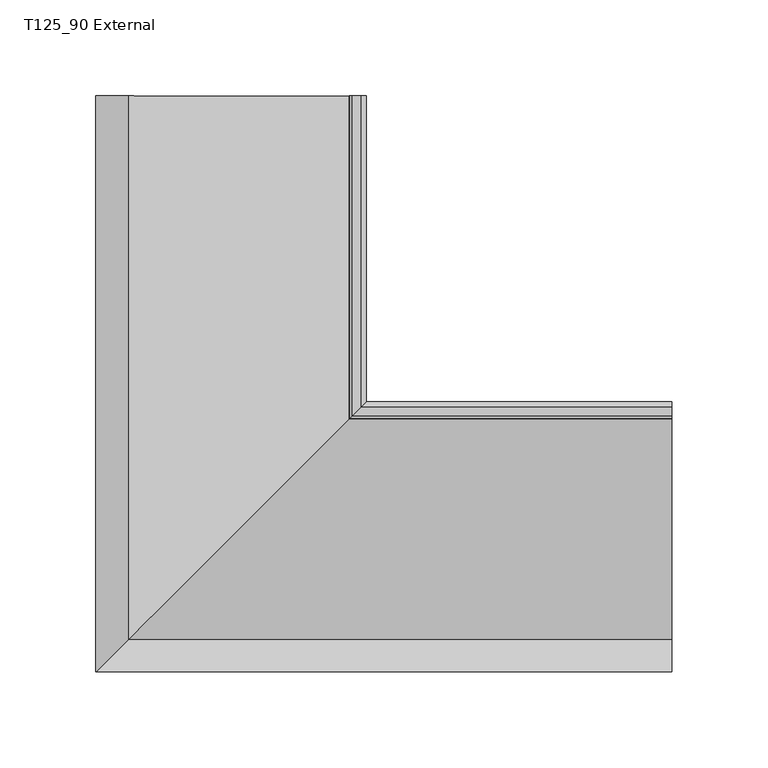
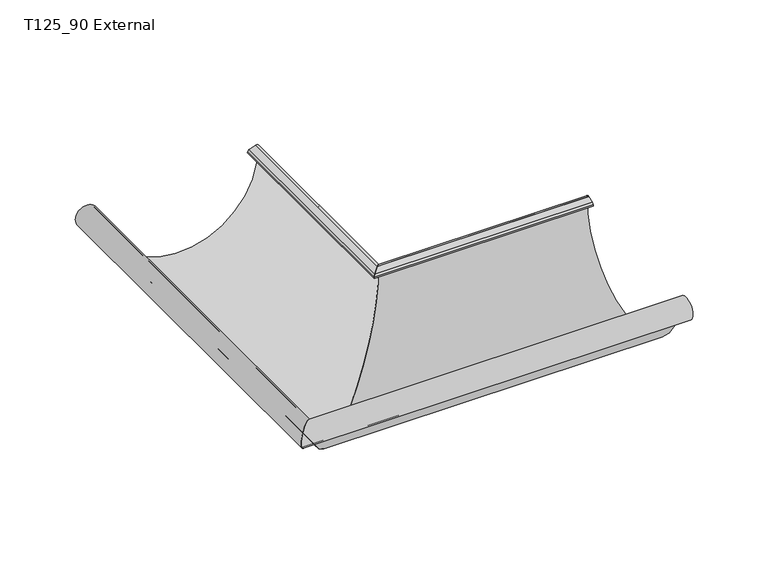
"""IFC4 building model written with IfcOpenShell, lengths in millimetres: proxy geometry, GROVIK_Gutter_Corner : T125_90 External."""

from ifc_helpers import new_model, si_unit, frame, origin, place, context, project, spatial, polyline, circle_curve, ellipse_curve, source, transform, mapped, element, save
from ifc_brep_helpers import plane_surface, cylinder_surface, revolved_surface, advanced_brep


def t125_90_external_ac835862(model_context):
    return source(origin(), model_context, "Body", "AdvancedBrep", [
        advanced_brep(
        [(-8.2218996, -8.2218996, -4.3767466), (-7.9286985, -7.9286985, -3.417729), (-7.3144139, -7.3144139, -2.7704081), (-2.6159508, -2.6159508, -1.0603074), (-1.2741356, -1.2741356, -2.0202437), (-123.9665472, -123.9665472, -11.1898563), (-133.8266643, -133.8266643, -20.54941), (-131.5235543, -131.5235543, -18.572593), (-131.5235543, -131.5235543, -12.0487098), (-132.5235543, -132.5235543, -12.0487098), (-132.5235543, -132.5235543, -18.572593), (-133.6750695, -133.6750695, -19.5609673), (-124.9615409, -124.9615409, -11.2897939), (-0.2739306, -0.2739306, -2.0), (-2.9579709, -2.9579709, -0.1206148), (-7.656434, -7.656434, -1.8307155), (-8.8850033, -8.8850033, -3.1253573), (-9.1782044, -9.1782044, -4.0843749), (-9.1782044, 158.9, -4.0843749), (-8.8850033, 158.9, -3.1253573), (-7.656434, 158.9, -1.8307155), (-2.9579709, 158.9, -0.1206148), (-0.2739306, 158.9, -2.0), (-124.9615409, 158.9, -11.2897939), (-133.6750695, 158.9, -19.5609673), (-132.5235543, 158.9, -18.572593), (-132.5235543, 158.9, -12.0487098), (-131.5235543, 158.9, -12.0487098), (-131.5235543, 158.9, -18.572593), (-133.8266643, 158.9, -20.54941), (-123.9665472, 158.9, -11.1898563), (-1.2741356, 158.9, -2.0202437), (-2.6159508, 158.9, -1.0603074), (-7.3144139, 158.9, -2.7704081), (-7.9286985, 158.9, -3.417729), (-8.2218996, 158.9, -4.3767466)],
        [
            (0, 1),
            (1, 2, ellipse_curve(frame((-6.9723938, -6.9723938, -3.7101007), z_axis=(-0.707106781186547, 0.7071067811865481, 0.0), x_axis=(-0.7071067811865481, -0.7071067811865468, 0.0)), 1.4142136, 1.0)),
            (2, 3),
            (3, 4, ellipse_curve(frame((-2.2739306, -2.2739306, -2.0), z_axis=(-0.707106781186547, 0.7071067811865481, 0.0), x_axis=(-0.7071067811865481, -0.7071067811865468, 0.0)), 1.4142136, 1.0)),
            (4, 5, ellipse_curve(frame((-62.7373106, -62.7373106, -5.0399641), z_axis=(-0.707106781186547, 0.7071067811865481, 0.0), x_axis=(-0.7071067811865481, -0.7071067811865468, 0.0)), 87.0268992, 61.5373106)),
            (5, 6, ellipse_curve(frame((-132.5230203, -132.5230203, -12.0492723), z_axis=(0.707106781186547, -0.7071067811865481, 0.0), x_axis=(0.7071067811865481, 0.7071067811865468, 0.0)), 12.1615647, 8.5995249)),
            (6, 7, ellipse_curve(frame((-133.5234851, -133.5234851, -18.572593), z_axis=(0.707106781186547, -0.7071067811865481, 0.0), x_axis=(0.7071067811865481, 0.7071067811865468, 0.0)), 2.8283292, 1.9999308)),
            (7, 8),
            (8, 9),
            (9, 10),
            (10, 11, ellipse_curve(frame((-133.5234851, -133.5234851, -18.572593), z_axis=(-0.707106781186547, 0.7071067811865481, 0.0), x_axis=(-0.7071067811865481, -0.7071067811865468, 0.0)), 1.4141156, 0.9999308)),
            (11, 12, ellipse_curve(frame((-132.5230203, -132.5230203, -12.0492723), z_axis=(-0.707106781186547, 0.7071067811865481, 0.0), x_axis=(-0.7071067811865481, -0.7071067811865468, 0.0)), 10.7473511, 7.5995249)),
            (12, 13, ellipse_curve(frame((-62.7373106, -62.7373106, -5.0399641), z_axis=(0.707106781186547, -0.7071067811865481, 0.0), x_axis=(0.7071067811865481, 0.7071067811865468, 0.0)), 88.4411128, 62.5373106)),
            (13, 14, ellipse_curve(frame((-2.2739306, -2.2739306, -2.0), z_axis=(0.707106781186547, -0.7071067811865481, 0.0), x_axis=(0.7071067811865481, 0.7071067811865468, 0.0)), 2.8284271, 2.0)),
            (14, 15),
            (15, 16, ellipse_curve(frame((-6.9723938, -6.9723938, -3.7101007), z_axis=(0.707106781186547, -0.7071067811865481, 0.0), x_axis=(0.7071067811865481, 0.7071067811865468, 0.0)), 2.8284271, 2.0)),
            (16, 17),
            (17, 0),
            (18, 19),
            (19, 20, circle_curve(frame((-6.9723938, 158.9, -3.7101007), z_axis=(0.0, 1.0, 0.0), x_axis=(-1.0, 0.0, 0.0)), 2.0)),
            (20, 21),
            (21, 22, circle_curve(frame((-2.2739306, 158.9, -2.0), z_axis=(0.0, 1.0, 0.0), x_axis=(-1.0, 0.0, 0.0)), 2.0)),
            (22, 23, circle_curve(frame((-62.7373106, 158.9, -5.0399641), z_axis=(0.0, 1.0, 0.0), x_axis=(-1.0, 0.0, 0.0)), 62.5373106)),
            (23, 24, circle_curve(frame((-132.5230203, 158.9, -12.0492723), z_axis=(0.0, -1.0, 0.0), x_axis=(-1.0, 0.0, 0.0)), 7.5995249)),
            (24, 25, circle_curve(frame((-133.5234851, 158.9, -18.572593), z_axis=(0.0, -1.0, 0.0), x_axis=(-1.0, 0.0, 0.0)), 0.9999308)),
            (25, 26),
            (26, 27),
            (27, 28),
            (28, 29, circle_curve(frame((-133.5234851, 158.9, -18.572593), z_axis=(0.0, 1.0, 0.0), x_axis=(-1.0, 0.0, 0.0)), 1.9999308)),
            (29, 30, circle_curve(frame((-132.5230203, 158.9, -12.0492723), z_axis=(0.0, 1.0, 0.0), x_axis=(-1.0, 0.0, 0.0)), 8.5995249)),
            (30, 31, circle_curve(frame((-62.7373106, 158.9, -5.0399641), z_axis=(0.0, -1.0, 0.0), x_axis=(-1.0, 0.0, 0.0)), 61.5373106)),
            (31, 32, circle_curve(frame((-2.2739306, 158.9, -2.0), z_axis=(0.0, -1.0, 0.0), x_axis=(-1.0, 0.0, 0.0)), 1.0)),
            (32, 33),
            (33, 34, circle_curve(frame((-6.9723938, 158.9, -3.7101007), z_axis=(0.0, -1.0, 0.0), x_axis=(-1.0, 0.0, 0.0)), 1.0)),
            (34, 35),
            (35, 18),
            (35, 0),
            (17, 18),
            (34, 1),
            (33, 2),
            (32, 3),
            (31, 4),
            (30, 5),
            (29, 6),
            (28, 7),
            (27, 8),
            (26, 9),
            (25, 10),
            (24, 11),
            (23, 12),
            (22, 13),
            (21, 14),
            (20, 15),
            (19, 16),
        ],
        [
            plane_surface(frame((-200.0, -200.0, 250.0), z_axis=(0.707106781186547, -0.7071067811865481, 0.0), x_axis=(0.0, 0.0, -1.0))),
            plane_surface(frame((-0.2, 158.9, 0.0), z_axis=(0.0, 1.0, 0.0), x_axis=(0.0, 0.0, 1.0))),
            plane_surface(frame((-9.1782044, 158.9, -4.0843749), z_axis=(-0.2923717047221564, 0.0, -0.956304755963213), x_axis=(0.0, -1.0, 0.0))),
            plane_surface(frame((-8.2218996, 158.9, -4.3767466), z_axis=(0.9563047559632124, 0.0, -0.2923717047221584), x_axis=(0.0, -1.0, 0.0))),
            revolved_surface(polyline([(-7.9723938, -7.972393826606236, -3.7101007), (-7.9723938, 158.9, -3.7101007)]), (-6.9723938, 158.9, -3.7101007), (0.0, -1.0, 0.0)),
            plane_surface(frame((-7.3144139, 158.9, -2.7704081), z_axis=(0.342020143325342, 0.0, -0.9396926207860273), x_axis=(0.0, -1.0, 0.0))),
            revolved_surface(polyline([(-3.2739306, -3.2739306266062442, -2.0), (-3.2739306, 158.9, -2.0)]), (-2.2739306, 158.9, -2.0), (0.0, -1.0, 0.0)),
            revolved_surface(polyline([(-124.2746212, -124.27462116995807, -5.0399641), (-124.2746212, 158.9, -5.0399641)]), (-62.7373106, 158.9, -5.0399641), (0.0, -1.0, 0.0)),
            cylinder_surface(frame((-132.5230203, 158.9, -12.0492723), z_axis=(0.0, 1.0, 0.0), x_axis=(-1.0, 0.0, 0.0)), 8.5995249),
            cylinder_surface(frame((-133.5234851, 158.9, -18.572593), z_axis=(0.0, 1.0, 0.0), x_axis=(-1.0, 0.0, 0.0)), 1.9999308),
            plane_surface(frame((-131.5235543, 158.9, -18.572593), z_axis=(1.0, 0.0, 0.0), x_axis=(0.0, -1.0, 0.0))),
            plane_surface(frame((-131.5235543, 158.9, -12.0487098), z_axis=(0.0, 0.0, 1.0), x_axis=(0.0, -1.0, 0.0))),
            plane_surface(frame((-132.5235543, 158.9, -12.0487098), z_axis=(-1.0, 0.0, 0.0), x_axis=(0.0, -1.0, 0.0))),
            revolved_surface(polyline([(-134.52341589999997, -134.52341583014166, -18.572593), (-134.52341589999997, 158.9, -18.572593)]), (-133.5234851, 158.9, -18.572593), (0.0, -1.0, 0.0)),
            revolved_surface(polyline([(-140.12254520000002, -140.12254514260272, -12.0492723), (-140.12254520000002, 158.9, -12.0492723)]), (-132.5230203, 158.9, -12.0492723), (0.0, -1.0, 0.0)),
            cylinder_surface(frame((-62.7373106, 158.9, -5.0399641), z_axis=(0.0, 1.0, 0.0), x_axis=(-1.0, 0.0, 0.0)), 62.5373106),
            cylinder_surface(frame((-2.2739306, 158.9, -2.0), z_axis=(0.0, 1.0, 0.0), x_axis=(-1.0, 0.0, 0.0)), 2.0),
            plane_surface(frame((-2.9579709, 158.9, -0.1206148), z_axis=(-0.3420201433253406, 0.0, 0.9396926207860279), x_axis=(0.0, -1.0, 0.0))),
            cylinder_surface(frame((-6.9723938, 158.9, -3.7101007), z_axis=(0.0, 1.0, 0.0), x_axis=(-1.0, 0.0, 0.0)), 2.0),
            plane_surface(frame((-8.8850033, 158.9, -3.1253573), z_axis=(-0.9563047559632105, 0.0, 0.29237170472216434), x_axis=(0.0, -1.0, 0.0))),
        ],
        [
            (0, [[1, 2, 3, 4, 5, 6, 7, 8, 9, 10, 11, 12, 13, 14, 15, 16, 17, 18]]),
            (1, [[19, 20, 21, 22, 23, 24, 25, 26, 27, 28, 29, 30, 31, 32, 33, 34, 35, 36]]),
            (2, [[37, -18, 38, -36]]),
            (3, [[39, -1, -37, -35]]),
            (4, [[40, -2, -39, -34]]),
            (5, [[41, -3, -40, -33]]),
            (6, [[42, -4, -41, -32]]),
            (7, [[43, -5, -42, -31]]),
            (8, [[44, -6, -43, -30]]),
            (9, [[45, -7, -44, -29]]),
            (10, [[46, -8, -45, -28]]),
            (11, [[47, -9, -46, -27]]),
            (12, [[48, -10, -47, -26]]),
            (13, [[49, -11, -48, -25]]),
            (14, [[50, -12, -49, -24]]),
            (15, [[51, -13, -50, -23]]),
            (16, [[52, -14, -51, -22]]),
            (17, [[53, -15, -52, -21]]),
            (18, [[54, -16, -53, -20]]),
            (19, [[-38, -17, -54, -19]]),
        ],
    ),
        advanced_brep(
        [(158.9, -9.1782044, -4.0843749), (158.9, -8.2218996, -4.3767466), (158.9, -7.9286985, -3.417729), (158.9, -7.3144139, -2.7704081), (158.9, -2.6159508, -1.0603074), (158.9, -1.2741356, -2.0202437), (158.9, -123.9665472, -11.1898563), (158.9, -133.8266643, -20.54941), (158.9, -131.5235543, -18.572593), (158.9, -131.5235543, -12.0487098), (158.9, -132.5235543, -12.0487098), (158.9, -132.5235543, -18.572593), (158.9, -133.6750695, -19.5609673), (158.9, -124.9615409, -11.2897939), (158.9, -0.2739306, -2.0), (158.9, -2.9579709, -0.1206148), (158.9, -7.656434, -1.8307155), (158.9, -8.8850033, -3.1253573), (-9.1782044, -9.1782044, -4.0843749), (-8.2218996, -8.2218996, -4.3767466), (-7.9286985, -7.9286985, -3.417729), (-7.3144139, -7.3144139, -2.7704081), (-2.6159508, -2.6159508, -1.0603074), (-1.2741356, -1.2741356, -2.0202437), (-123.9665472, -123.9665472, -11.1898563), (-133.8266643, -133.8266643, -20.54941), (-131.5235543, -131.5235543, -18.572593), (-131.5235543, -131.5235543, -12.0487098), (-132.5235543, -132.5235543, -12.0487098), (-132.5235543, -132.5235543, -18.572593), (-133.6750695, -133.6750695, -19.5609673), (-124.9615409, -124.9615409, -11.2897939), (-0.2739306, -0.2739306, -2.0), (-2.9579709, -2.9579709, -0.1206148), (-7.656434, -7.656434, -1.8307155), (-8.8850033, -8.8850033, -3.1253573)],
        [
            (0, 1),
            (1, 2),
            (2, 3, circle_curve(frame((158.9, -6.9723938, -3.7101007), z_axis=(-1.0, 0.0, 0.0), x_axis=(0.0, -1.0, 0.0)), 1.0)),
            (3, 4),
            (4, 5, circle_curve(frame((158.9, -2.2739306, -2.0), z_axis=(-1.0, 0.0, 0.0), x_axis=(0.0, -1.0, 0.0)), 1.0)),
            (5, 6, circle_curve(frame((158.9, -62.7373106, -5.0399641), z_axis=(-1.0, 0.0, 0.0), x_axis=(0.0, -1.0, 0.0)), 61.5373106)),
            (6, 7, circle_curve(frame((158.9, -132.5230203, -12.0492723), z_axis=(1.0, 0.0, 0.0), x_axis=(0.0, -1.0, 0.0)), 8.5995249)),
            (7, 8, circle_curve(frame((158.9, -133.5234851, -18.572593), z_axis=(1.0, 0.0, 0.0), x_axis=(0.0, -1.0, 0.0)), 1.9999308)),
            (8, 9),
            (9, 10),
            (10, 11),
            (11, 12, circle_curve(frame((158.9, -133.5234851, -18.572593), z_axis=(-1.0, 0.0, 0.0), x_axis=(0.0, -1.0, 0.0)), 0.9999308)),
            (12, 13, circle_curve(frame((158.9, -132.5230203, -12.0492723), z_axis=(-1.0, 0.0, 0.0), x_axis=(0.0, -1.0, 0.0)), 7.5995249)),
            (13, 14, circle_curve(frame((158.9, -62.7373106, -5.0399641), z_axis=(1.0, 0.0, 0.0), x_axis=(0.0, -1.0, 0.0)), 62.5373106)),
            (14, 15, circle_curve(frame((158.9, -2.2739306, -2.0), z_axis=(1.0, 0.0, 0.0), x_axis=(0.0, -1.0, 0.0)), 2.0)),
            (15, 16),
            (16, 17, circle_curve(frame((158.9, -6.9723938, -3.7101007), z_axis=(1.0, 0.0, 0.0), x_axis=(0.0, -1.0, 0.0)), 2.0)),
            (17, 0),
            (0, 18),
            (18, 19),
            (19, 1),
            (19, 20),
            (20, 2),
            (20, 21, ellipse_curve(frame((-6.9723938, -6.9723938, -3.7101007), z_axis=(-0.707106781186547, 0.7071067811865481, 0.0), x_axis=(-0.7071067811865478, -0.707106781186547, 0.0)), 1.4142136, 1.0)),
            (21, 3),
            (21, 22),
            (22, 4),
            (22, 23, ellipse_curve(frame((-2.2739306, -2.2739306, -2.0), z_axis=(-0.707106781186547, 0.7071067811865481, 0.0), x_axis=(-0.7071067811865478, -0.707106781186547, 0.0)), 1.4142136, 1.0)),
            (23, 5),
            (23, 24, ellipse_curve(frame((-62.7373106, -62.7373106, -5.0399641), z_axis=(-0.707106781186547, 0.7071067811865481, 0.0), x_axis=(-0.7071067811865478, -0.707106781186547, 0.0)), 87.0268992, 61.5373106)),
            (24, 6),
            (24, 25, ellipse_curve(frame((-132.5230203, -132.5230203, -12.0492723), z_axis=(0.707106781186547, -0.7071067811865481, 0.0), x_axis=(0.7071067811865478, 0.707106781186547, 0.0)), 12.1615647, 8.5995249)),
            (25, 7),
            (25, 26, ellipse_curve(frame((-133.5234851, -133.5234851, -18.572593), z_axis=(0.707106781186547, -0.7071067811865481, 0.0), x_axis=(0.7071067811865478, 0.707106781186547, 0.0)), 2.8283292, 1.9999308)),
            (26, 8),
            (26, 27),
            (27, 9),
            (27, 28),
            (28, 10),
            (28, 29),
            (29, 11),
            (29, 30, ellipse_curve(frame((-133.5234851, -133.5234851, -18.572593), z_axis=(-0.707106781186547, 0.7071067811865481, 0.0), x_axis=(-0.7071067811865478, -0.707106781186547, 0.0)), 1.4141156, 0.9999308)),
            (30, 12),
            (30, 31, ellipse_curve(frame((-132.5230203, -132.5230203, -12.0492723), z_axis=(-0.707106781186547, 0.7071067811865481, 0.0), x_axis=(-0.7071067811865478, -0.707106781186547, 0.0)), 10.7473511, 7.5995249)),
            (31, 13),
            (31, 32, ellipse_curve(frame((-62.7373106, -62.7373106, -5.0399641), z_axis=(0.707106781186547, -0.7071067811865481, 0.0), x_axis=(0.7071067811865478, 0.707106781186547, 0.0)), 88.4411128, 62.5373106)),
            (32, 14),
            (32, 33, ellipse_curve(frame((-2.2739306, -2.2739306, -2.0), z_axis=(0.707106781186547, -0.7071067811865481, 0.0), x_axis=(0.7071067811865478, 0.707106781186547, 0.0)), 2.8284271, 2.0)),
            (33, 15),
            (33, 34),
            (34, 16),
            (34, 35, ellipse_curve(frame((-6.9723938, -6.9723938, -3.7101007), z_axis=(0.707106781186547, -0.7071067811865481, 0.0), x_axis=(0.7071067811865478, 0.707106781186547, 0.0)), 2.8284271, 2.0)),
            (35, 17),
            (35, 18),
        ],
        [
            plane_surface(frame((158.9, -0.2, 0.0), z_axis=(1.0, 0.0, 0.0), x_axis=(0.0, 0.0, 1.0))),
            plane_surface(frame((158.9, -9.1782044, -4.0843749), z_axis=(0.0, -0.2923717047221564, -0.956304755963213), x_axis=(-1.0, 0.0, 0.0))),
            plane_surface(frame((158.9, -8.2218996, -4.3767466), z_axis=(0.0, 0.9563047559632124, -0.2923717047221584), x_axis=(-1.0, 0.0, 0.0))),
            revolved_surface(polyline([(-7.972393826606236, -7.9723938, -3.7101007), (158.9, -7.9723938, -3.7101007)]), (158.9, -6.9723938, -3.7101007), (-1.0, 0.0, 0.0)),
            plane_surface(frame((158.9, -7.3144139, -2.7704081), z_axis=(0.0, 0.342020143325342, -0.9396926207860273), x_axis=(-1.0, 0.0, 0.0))),
            revolved_surface(polyline([(-3.2739306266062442, -3.2739306, -2.0), (158.9, -3.2739306, -2.0)]), (158.9, -2.2739306, -2.0), (-1.0, 0.0, 0.0)),
            revolved_surface(polyline([(-124.27462116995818, -124.2746212, -5.0399641), (158.9, -124.2746212, -5.0399641)]), (158.9, -62.7373106, -5.0399641), (-1.0, 0.0, 0.0)),
            cylinder_surface(frame((158.9, -132.5230203, -12.0492723), z_axis=(1.0, 0.0, 0.0), x_axis=(0.0, -1.0, 0.0)), 8.5995249),
            cylinder_surface(frame((158.9, -133.5234851, -18.572593), z_axis=(1.0, 0.0, 0.0), x_axis=(0.0, -1.0, 0.0)), 1.9999308),
            plane_surface(frame((158.9, -131.5235543, -18.572593), z_axis=(0.0, 1.0, 0.0), x_axis=(-1.0, 0.0, 0.0))),
            plane_surface(frame((158.9, -131.5235543, -12.0487098), z_axis=(0.0, 0.0, 1.0), x_axis=(-1.0, 0.0, 0.0))),
            plane_surface(frame((158.9, -132.5235543, -12.0487098), z_axis=(0.0, -1.0, 0.0), x_axis=(-1.0, 0.0, 0.0))),
            revolved_surface(polyline([(-134.52341583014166, -134.52341589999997, -18.572593), (158.9, -134.52341589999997, -18.572593)]), (158.9, -133.5234851, -18.572593), (-1.0, 0.0, 0.0)),
            revolved_surface(polyline([(-140.12254514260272, -140.12254520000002, -12.0492723), (158.9, -140.12254520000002, -12.0492723)]), (158.9, -132.5230203, -12.0492723), (-1.0, 0.0, 0.0)),
            cylinder_surface(frame((158.9, -62.7373106, -5.0399641), z_axis=(1.0, 0.0, 0.0), x_axis=(0.0, -1.0, 0.0)), 62.5373106),
            cylinder_surface(frame((158.9, -2.2739306, -2.0), z_axis=(1.0, 0.0, 0.0), x_axis=(0.0, -1.0, 0.0)), 2.0),
            plane_surface(frame((158.9, -2.9579709, -0.1206148), z_axis=(0.0, -0.3420201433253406, 0.9396926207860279), x_axis=(-1.0, 0.0, 0.0))),
            cylinder_surface(frame((158.9, -6.9723938, -3.7101007), z_axis=(1.0, 0.0, 0.0), x_axis=(0.0, -1.0, 0.0)), 2.0),
            plane_surface(frame((158.9, -8.8850033, -3.1253573), z_axis=(0.0, -0.9563047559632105, 0.29237170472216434), x_axis=(-1.0, 0.0, 0.0))),
            plane_surface(frame((-200.0, -200.0, 250.0), z_axis=(-0.707106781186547, 0.7071067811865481, 0.0), x_axis=(0.0, 0.0, -1.0))),
        ],
        [
            (0, [[1, 2, 3, 4, 5, 6, 7, 8, 9, 10, 11, 12, 13, 14, 15, 16, 17, 18]]),
            (1, [[-1, 19, 20, 21]]),
            (2, [[-2, -21, 22, 23]]),
            (3, [[-3, -23, 24, 25]]),
            (4, [[-4, -25, 26, 27]]),
            (5, [[-5, -27, 28, 29]]),
            (6, [[-6, -29, 30, 31]]),
            (7, [[-7, -31, 32, 33]]),
            (8, [[-8, -33, 34, 35]]),
            (9, [[-9, -35, 36, 37]]),
            (10, [[-10, -37, 38, 39]]),
            (11, [[-11, -39, 40, 41]]),
            (12, [[-12, -41, 42, 43]]),
            (13, [[-13, -43, 44, 45]]),
            (14, [[-14, -45, 46, 47]]),
            (15, [[-15, -47, 48, 49]]),
            (16, [[-16, -49, 50, 51]]),
            (17, [[-17, -51, 52, 53]]),
            (18, [[-18, -53, 54, -19]]),
            (19, [[-20, -54, -52, -50, -48, -46, -44, -42, -40, -38, -36, -34, -32, -30, -28, -26, -24, -22]]),
        ],
    ),
    ])


if __name__ == "__main__":
    model = new_model("IFC4")
    model_context = context("Model", 3, world=origin())
    ifc_project = project(units=[si_unit("LENGTHUNIT", "METRE", prefix="MILLI")], contexts=[model_context])
    site = spatial("IfcSite", under=ifc_project)
    building = spatial("IfcBuilding", under=site)
    placement = place(None, origin())
    t125_90_external_shape = t125_90_external_ac835862(model_context)
    element("IfcBuildingElementProxy", 1, Name="GROVIK_Gutter_Corner : T125_90 External", ObjectType="GROVIK_Gutter_Corner : T125_90 External", at=placement, inside=building, context=model_context, shape_type="MappedRepresentation", body=[
        mapped(t125_90_external_shape, transform((0.0, 0.0, 0.0), x_axis=(1.0, 0.0, 0.0), y_axis=(0.0, 1.0, 0.0), z_axis=(0.0, 0.0, 1.0))),
    ])
    save(model, "model.ifc")
